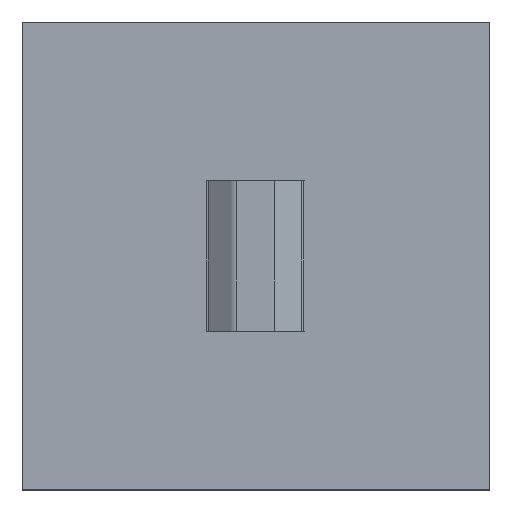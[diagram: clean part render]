
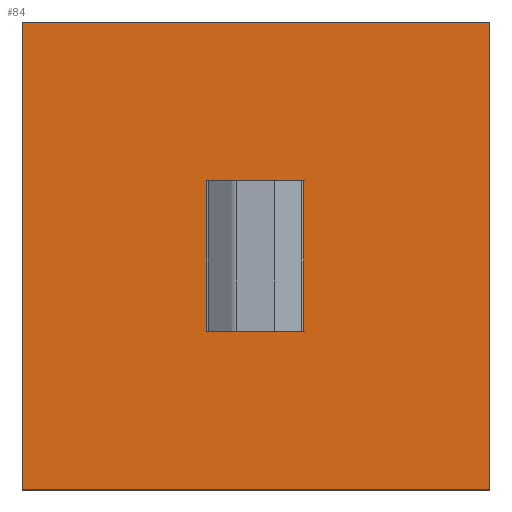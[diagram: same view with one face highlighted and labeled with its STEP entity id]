
A CAD part, top view. The second image highlights one B-rep face of the part: STEP entity #84.
In plain terms, the highlighted planar face has unit normal (0, 0, 1).
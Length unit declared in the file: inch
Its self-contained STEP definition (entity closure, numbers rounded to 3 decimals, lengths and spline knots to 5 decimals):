
#84=ADVANCED_FACE('',(#123,#124),#125,.F.);
#123=FACE_OUTER_BOUND('',#181,.T.);
#124=FACE_BOUND('',#182,.T.);
#125=PLANE('',#183);
#181=EDGE_LOOP('',(#311,#312,#313,#314));
#182=EDGE_LOOP('',(#315,#316,#317,#318,#319,#320,#321,#322,#323,#324,#325,#326));
#183=AXIS2_PLACEMENT_3D('',#327,#328,#329);
#311=ORIENTED_EDGE('',*,*,#504,.F.);
#312=ORIENTED_EDGE('',*,*,#509,.T.);
#313=ORIENTED_EDGE('',*,*,#518,.T.);
#314=ORIENTED_EDGE('',*,*,#473,.F.);
#315=ORIENTED_EDGE('',*,*,#519,.T.);
#316=ORIENTED_EDGE('',*,*,#491,.F.);
#317=ORIENTED_EDGE('',*,*,#498,.F.);
#318=ORIENTED_EDGE('',*,*,#502,.F.);
#319=ORIENTED_EDGE('',*,*,#499,.F.);
#320=ORIENTED_EDGE('',*,*,#479,.T.);
#321=ORIENTED_EDGE('',*,*,#520,.T.);
#322=ORIENTED_EDGE('',*,*,#521,.F.);
#323=ORIENTED_EDGE('',*,*,#522,.T.);
#324=ORIENTED_EDGE('',*,*,#523,.T.);
#325=ORIENTED_EDGE('',*,*,#524,.T.);
#326=ORIENTED_EDGE('',*,*,#525,.T.);
#327=CARTESIAN_POINT('',(11.75435,16.03429,0.1));
#328=DIRECTION('',(0.,0.,-1.0));
#329=DIRECTION('',(0.,1.0,0.));
#473=EDGE_CURVE('',#556,#559,#560,.T.);
#479=EDGE_CURVE('',#571,#569,#572,.T.);
#491=EDGE_CURVE('',#593,#595,#596,.T.);
#498=EDGE_CURVE('',#606,#593,#608,.T.);
#499=EDGE_CURVE('',#571,#609,#610,.T.);
#502=EDGE_CURVE('',#609,#606,#614,.T.);
#504=EDGE_CURVE('',#616,#556,#617,.T.);
#509=EDGE_CURVE('',#616,#623,#625,.F.);
#518=EDGE_CURVE('',#623,#559,#640,.T.);
#519=EDGE_CURVE('',#641,#595,#642,.T.);
#520=EDGE_CURVE('',#569,#643,#644,.T.);
#521=EDGE_CURVE('',#645,#643,#646,.T.);
#522=EDGE_CURVE('',#645,#647,#648,.T.);
#523=EDGE_CURVE('',#647,#649,#650,.T.);
#524=EDGE_CURVE('',#649,#651,#652,.T.);
#525=EDGE_CURVE('',#651,#641,#653,.T.);
#556=VERTEX_POINT('',#696);
#559=VERTEX_POINT('',#700);
#560=LINE('',#701,#702);
#569=VERTEX_POINT('',#714);
#571=VERTEX_POINT('',#716);
#572=LINE('',#717,#718);
#593=VERTEX_POINT('',#745);
#595=VERTEX_POINT('',#748);
#596=LINE('',#749,#750);
#606=VERTEX_POINT('',#763);
#608=LINE('',#766,#767);
#609=VERTEX_POINT('',#768);
#610=LINE('',#769,#770);
#614=LINE('',#776,#777);
#616=VERTEX_POINT('',#780);
#617=LINE('',#781,#782);
#623=VERTEX_POINT('',#791);
#625=LINE('',#794,#795);
#640=LINE('',#818,#819);
#641=VERTEX_POINT('',#820);
#642=LINE('',#821,#822);
#643=VERTEX_POINT('',#823);
#644=LINE('',#824,#825);
#645=VERTEX_POINT('',#826);
#646=LINE('',#827,#828);
#647=VERTEX_POINT('',#829);
#648=LINE('',#830,#831);
#649=VERTEX_POINT('',#832);
#650=LINE('',#833,#834);
#651=VERTEX_POINT('',#835);
#652=LINE('',#836,#837);
#653=LINE('',#838,#839);
#696=CARTESIAN_POINT('',(10.86865,13.8475,0.1));
#700=CARTESIAN_POINT('',(8.86865,13.8475,0.1));
#701=CARTESIAN_POINT('',(6475.11121,13.8475,0.1));
#702=VECTOR('',#905,1.0);
#714=CARTESIAN_POINT('',(9.65829,14.5265,0.1));
#716=CARTESIAN_POINT('',(9.65593,14.5265,0.1));
#717=CARTESIAN_POINT('',(9.64173,14.5265,0.1));
#718=VECTOR('',#915,1.0);
#745=CARTESIAN_POINT('',(10.07593,14.5265,0.1));
#748=CARTESIAN_POINT('',(10.07266,14.5265,0.1));
#749=CARTESIAN_POINT('',(10.09012,14.5265,0.1));
#750=VECTOR('',#935,1.0);
#763=CARTESIAN_POINT('',(10.07593,14.5245,0.1));
#766=CARTESIAN_POINT('',(10.07593,14.02911,0.1));
#767=VECTOR('',#946,1.0);
#768=CARTESIAN_POINT('',(9.65593,14.5245,0.1));
#769=CARTESIAN_POINT('',(9.65593,14.17911,0.1));
#770=VECTOR('',#947,1.0);
#776=CARTESIAN_POINT('',(10.69814,14.5245,0.1));
#777=VECTOR('',#950,1.0);
#780=CARTESIAN_POINT('',(10.86865,15.8475,0.1));
#781=CARTESIAN_POINT('',(10.86865,-2626.70291,0.1));
#782=VECTOR('',#952,1.0);
#791=CARTESIAN_POINT('',(8.86865,15.8475,0.1));
#794=CARTESIAN_POINT('',(6475.11121,15.8475,0.1));
#795=VECTOR('',#957,1.0);
#818=CARTESIAN_POINT('',(8.86865,2825.34526,0.1));
#819=VECTOR('',#966,1.0);
#820=CARTESIAN_POINT('',(10.07266,15.1685,0.1));
#821=CARTESIAN_POINT('',(10.07266,14.21585,0.1));
#822=VECTOR('',#967,1.0);
#823=CARTESIAN_POINT('',(9.65829,15.1685,0.1));
#824=CARTESIAN_POINT('',(9.65829,14.21591,0.1));
#825=VECTOR('',#968,1.0);
#826=CARTESIAN_POINT('',(9.65593,15.1685,0.1));
#827=CARTESIAN_POINT('',(9.64173,15.1685,0.1));
#828=VECTOR('',#969,1.0);
#829=CARTESIAN_POINT('',(9.65593,15.1705,0.1));
#830=CARTESIAN_POINT('',(9.65593,15.5159,0.1));
#831=VECTOR('',#970,1.0);
#832=CARTESIAN_POINT('',(10.07593,15.1705,0.1));
#833=CARTESIAN_POINT('',(10.69814,15.1705,0.1));
#834=VECTOR('',#971,1.0);
#835=CARTESIAN_POINT('',(10.07593,15.1685,0.1));
#836=CARTESIAN_POINT('',(10.07593,15.6659,0.1));
#837=VECTOR('',#972,1.0);
#838=CARTESIAN_POINT('',(10.09012,15.1685,0.1));
#839=VECTOR('',#973,1.0);
#905=DIRECTION('',(-1.0,0.0,0.));
#915=DIRECTION('',(1.0,0.0,0.));
#935=DIRECTION('',(-1.0,0.,0.));
#946=DIRECTION('',(0.,1.0,0.));
#947=DIRECTION('',(0.,-1.0,0.));
#950=DIRECTION('',(1.0,0.0,0.));
#952=DIRECTION('',(0.0,-1.0,0.));
#957=DIRECTION('',(1.0,0.0,0.));
#966=DIRECTION('',(0.0,-1.0,0.));
#967=DIRECTION('',(0.,-1.0,0.));
#968=DIRECTION('',(0.,1.0,0.));
#969=DIRECTION('',(1.0,0.0,0.));
#970=DIRECTION('',(0.,1.0,0.));
#971=DIRECTION('',(1.0,0.0,0.));
#972=DIRECTION('',(0.,-1.0,0.));
#973=DIRECTION('',(-1.0,0.,0.));
